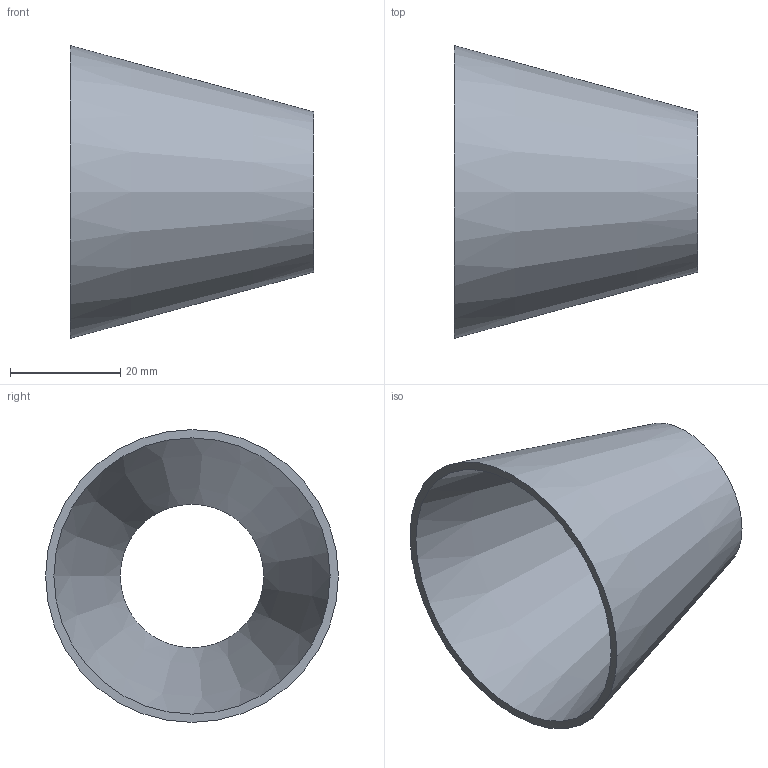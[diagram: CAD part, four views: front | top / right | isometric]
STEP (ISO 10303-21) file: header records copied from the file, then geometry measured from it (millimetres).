
FILE_DESCRIPTION(('FreeCAD Model'),'2;1');
FILE_NAME( '/home/martin/Documents/proyect/accesorios/stp/red-con_DN50-25.step', '2017-12-31T12:23:12',('Author'),(''), 'Open CASCADE STEP processor 6.8','FreeCAD','Unknown');
FILE_SCHEMA(('AUTOMOTIVE_DESIGN_CC2 { 1 2 10303 214 -1 1 5 4 }'));
Length unit declared in the file: millimetre
Products named in the file (1): red-con_DN50-25
Bounding box: 44 x 53 x 53 mm (x, y, z)
Volume: 8190.1 mm3; surface area: 11691.3 mm2
Topology: 1 solids, 1 shells, 4 faces, 6 edges, 4 vertices
Faces by surface type: cone 2, plane 2
Entity records: 191 total; most frequent: CARTESIAN_POINT 33, DIRECTION 26, ORIENTED_EDGE 12, PCURVE 12, DEFINITIONAL_REPRESENTATION 12, AXIS2_PLACEMENT_3D 9, CIRCLE 8, FACE_BOUND 6
